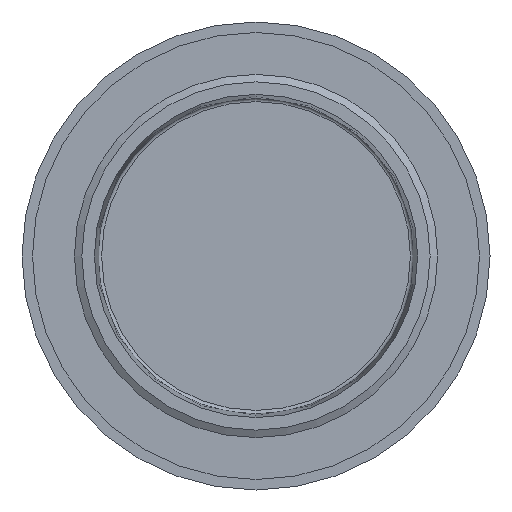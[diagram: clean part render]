
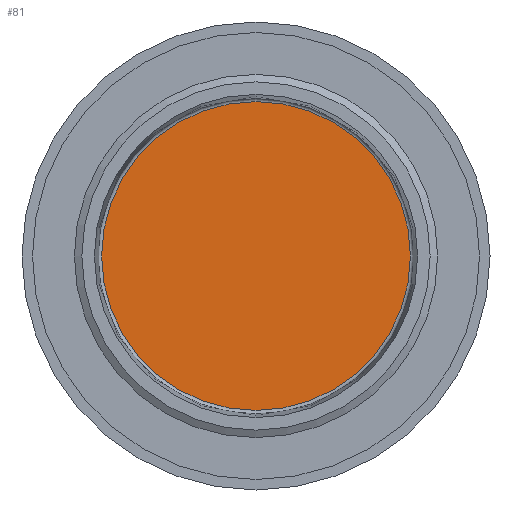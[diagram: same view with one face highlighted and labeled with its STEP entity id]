
A CAD part, front view. The second image highlights one B-rep face of the part: STEP entity #81.
In plain terms, the highlighted planar face has unit normal (0, -1, 0).
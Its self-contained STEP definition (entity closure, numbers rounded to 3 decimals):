
#81 = ADVANCED_FACE( '', ( #112 ), #113, .T. );
#112 = FACE_OUTER_BOUND( '', #164, .T. );
#113 = PLANE( '', #165 );
#164 = EDGE_LOOP( '', ( #236 ) );
#165 = AXIS2_PLACEMENT_3D( '', #237, #238, #239 );
#236 = ORIENTED_EDGE( '', *, *, #334, .T. );
#237 = CARTESIAN_POINT( '', ( 0., 12.5, 0. ) );
#238 = DIRECTION( '', ( 0., -1., 0. ) );
#239 = DIRECTION( '', ( 0., 0., -1. ) );
#334 = EDGE_CURVE( '', #377, #377, #378, .T. );
#377 = VERTEX_POINT( '', #440 );
#378 = CIRCLE( '', #441, 17.817 );
#440 = CARTESIAN_POINT( '', ( 0., 12.5, -17.817 ) );
#441 = AXIS2_PLACEMENT_3D( '', #500, #501, #502 );
#500 = CARTESIAN_POINT( '', ( 0., 12.5, 0. ) );
#501 = DIRECTION( '', ( 0., -1., 0. ) );
#502 = DIRECTION( '', ( 0., 0., -1. ) );
